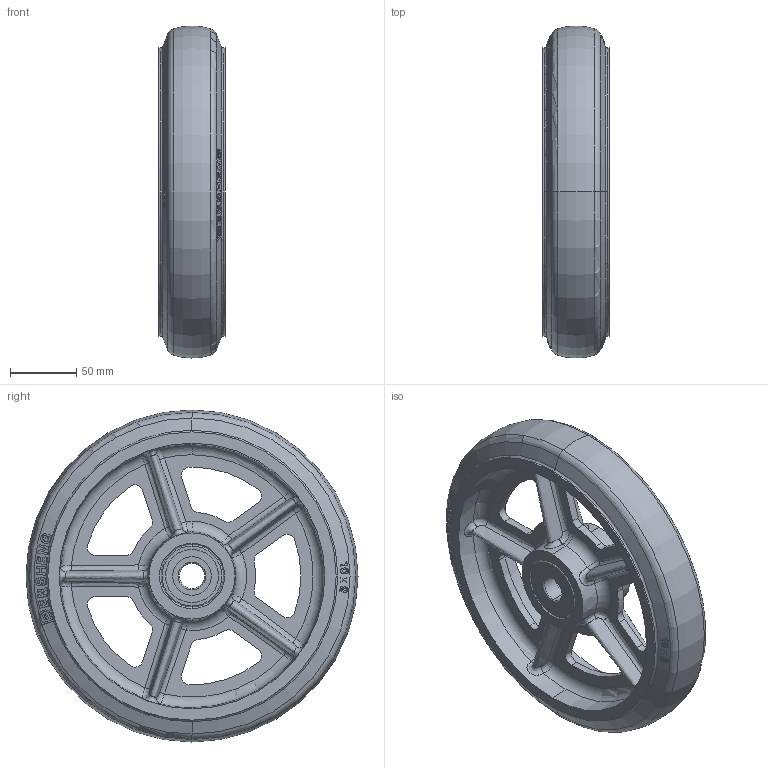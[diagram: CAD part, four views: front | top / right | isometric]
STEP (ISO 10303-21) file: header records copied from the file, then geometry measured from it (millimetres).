
FILE_DESCRIPTION (( 'STEP AP214' ), '1' );
FILE_NAME ('12040410209171.STEP', '2026-04-09T00:54:31', ( '20241006' ), ( '' ), 'SwSTEP 2.0', 'SolidWorks 2021', '' );
FILE_SCHEMA (( 'AUTOMOTIVE_DESIGN' ));
Length unit declared in the file: millimetre
Products named in the file (1): 12040410209171
Bounding box: 50 x 250 x 250 mm (x, y, z)
Volume: 1062519 mm3; surface area: 160311.1 mm2
Topology: 1 solids, 3 shells, 590 faces, 1582 edges, 1038 vertices
Faces by surface type: plane 246, bspline 188, cone 56, torus 50, cylinder 50
Entity records: 35029 total; most frequent: CARTESIAN_POINT 22334, ORIENTED_EDGE 3164, DIRECTION 1797, EDGE_CURVE 1582, VERTEX_POINT 1038, B_SPLINE_CURVE_WITH_KNOTS 887, AXIS2_PLACEMENT_3D 699, EDGE_LOOP 646
